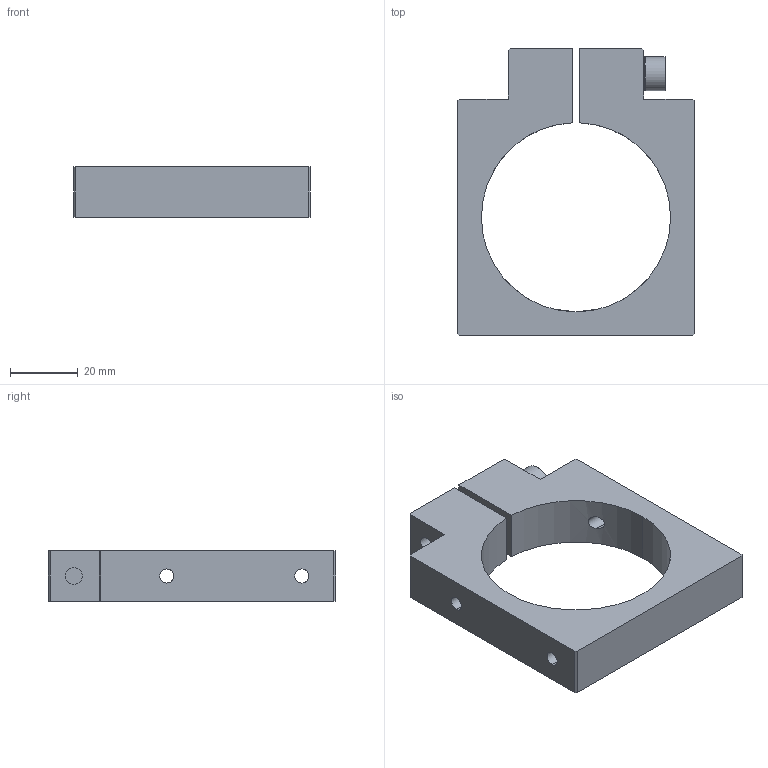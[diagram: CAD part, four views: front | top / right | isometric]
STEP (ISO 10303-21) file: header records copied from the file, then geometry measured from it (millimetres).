
FILE_DESCRIPTION (( 'STEP AP214' ), '1' );
FILE_NAME ('SCE4-NR30T.STEP', '2023-01-16T00:56:22', ( 'Windows User' ), ( 'P R C' ), 'SwSTEP 2.0', 'SolidWorks 2019', '' );
FILE_SCHEMA (( 'AUTOMOTIVE_DESIGN' ));
Length unit declared in the file: millimetre
Products named in the file (4): SCE4-NR30; SCE4-NR30T; PTC-M6L16; PTS-M6
Assembly tree (3 placements, depth 2):
  SCE4-NR30T
    SCE4-NR30
    PTC-M6L16
    PTS-M6
Bounding box: 70 x 85 x 15 mm (x, y, z)
Volume: 43755.6 mm3; surface area: 16043.2 mm2
Topology: 3 solids, 3 shells, 218 faces, 634 edges, 422 vertices
Faces by surface type: plane 189, cylinder 23, cone 6
Entity records: 7766 total; most frequent: CARTESIAN_POINT 1520, DIRECTION 1282, ORIENTED_EDGE 1268, EDGE_CURVE 634, AXIS2_PLACEMENT_3D 432, VERTEX_POINT 422, LINE 418, VECTOR 418
